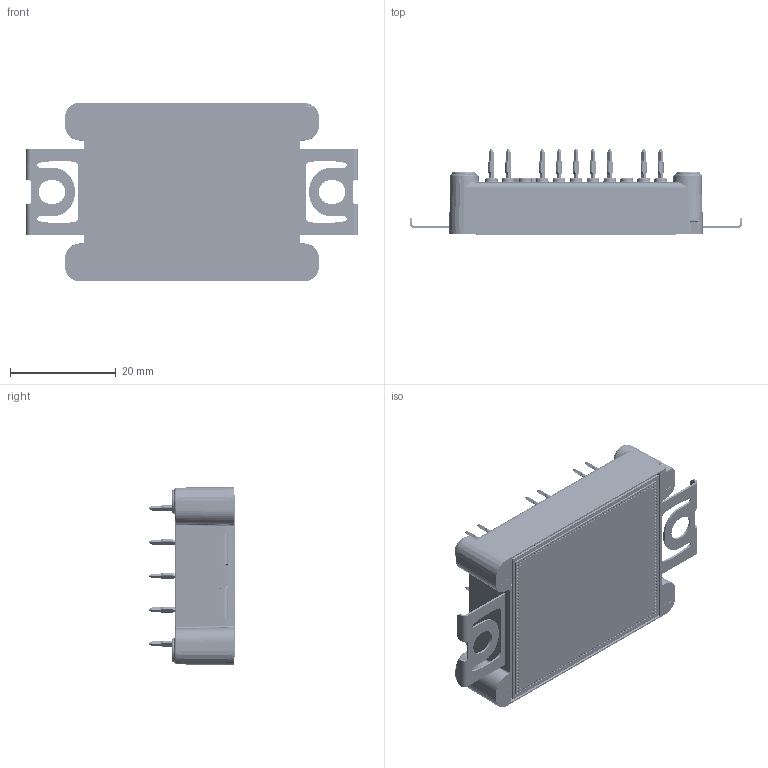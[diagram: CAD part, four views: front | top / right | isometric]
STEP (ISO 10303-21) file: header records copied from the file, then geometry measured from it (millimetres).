
FILE_DESCRIPTION (( 'STEP AP214' ), '1' );
FILE_NAME ('CCB032M12FM3T (2026-06-05).STEP', '2026-06-06T04:56:08', ( '' ), ( '' ), 'SwSTEP 2.0', 'SolidWorks 2025', '' );
FILE_SCHEMA (( 'AUTOMOTIVE_DESIGN' ));
Length unit declared in the file: millimetre
Products named in the file (1): CCB032M12FM3T (2026-06-05)
Bounding box: 62.8 x 16.4 x 33.8 mm (x, y, z)
Volume: 13502.7 mm3; surface area: 11218.4 mm2
Topology: 24 solids, 24 shells, 3785 faces, 9227 edges, 5761 vertices
Faces by surface type: cylinder 1422, plane 1060, bspline 677, cone 626
Entity records: 142792 total; most frequent: CARTESIAN_POINT 60914, ORIENTED_EDGE 18446, DIRECTION 14821, EDGE_CURVE 9223, VERTEX_POINT 5761, AXIS2_PLACEMENT_3D 5601, EDGE_LOOP 4218, ADVANCED_FACE 3785
